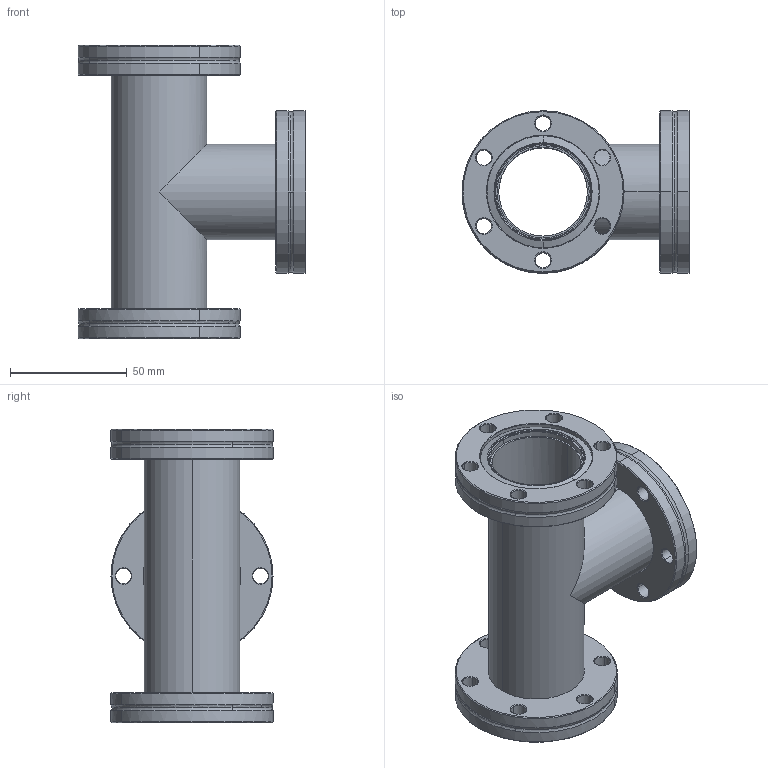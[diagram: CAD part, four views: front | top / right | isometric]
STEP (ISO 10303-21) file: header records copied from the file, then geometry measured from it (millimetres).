
FILE_DESCRIPTION((''),'2;1');
FILE_NAME('N:\Transfer\Berger Martin\Leybold\C15\83615.stp','2005-02-07T08:50:18',('VCRC_L'),(''),'Autodesk Inventor 9','Autodesk Inventor 9','');
FILE_SCHEMA(('AUTOMOTIVE_DESIGN { 1 0 10303 214 1 1 1 1 }'));
Length unit declared in the file: millimetre
Products named in the file (1): 83615
Bounding box: 97.75 x 69.5 x 126 mm (x, y, z)
Volume: 114147 mm3; surface area: 73013.1 mm2
Topology: 1 solids, 1 shells, 241 faces, 573 edges, 347 vertices
Faces by surface type: cone 110, bspline 52, cylinder 44, torus 18, plane 17
Entity records: 8323 total; most frequent: CARTESIAN_POINT 2566, DIRECTION 1318, ORIENTED_EDGE 1146, EDGE_CURVE 573, AXIS2_PLACEMENT_3D 563, CIRCLE 365, VERTEX_POINT 347, EDGE_LOOP 294
